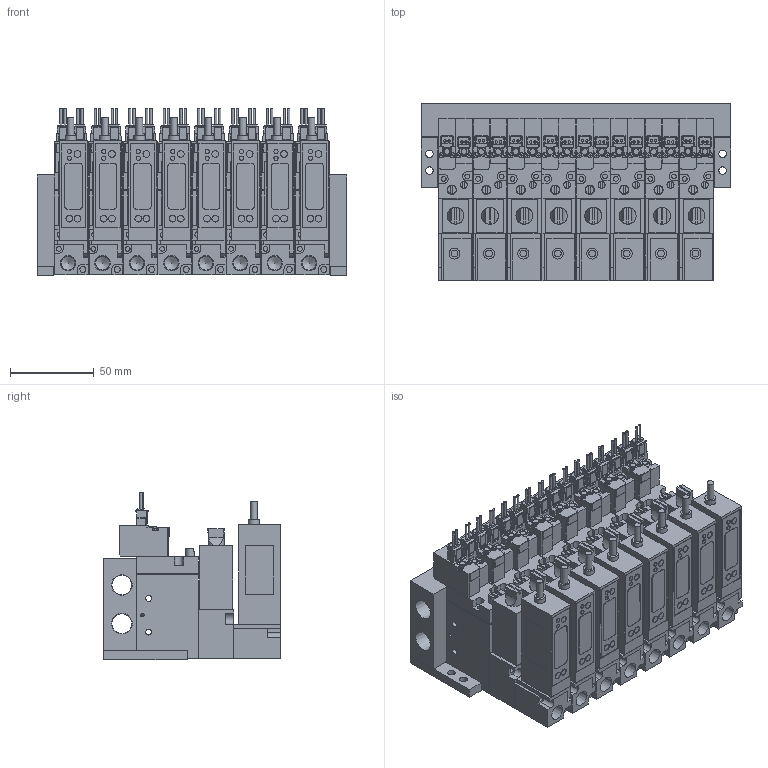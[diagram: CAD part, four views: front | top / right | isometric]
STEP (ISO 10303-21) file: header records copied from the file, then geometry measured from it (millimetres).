
FILE_DESCRIPTION(('STEP AP203'),'1');
FILE_NAME('BMPV32M2NV(R)G25AL808.stp','2025-06-17T00:53:22',(' '),(' '),'Spatial InterOp 3D',' ',' ');
FILE_SCHEMA(('CONFIG_CONTROL_DESIGN'));
Length unit declared in the file: millimetre
Products named in the file (100): BMPV32M2NV(R)G25AL808; Pressure sensor VGL; ___-3(Rc); Filter Assy; __; _____; ___ ___; MB BRACKET; MB08; ___; upper plate-A; ______; ____; VACUUM VALVE FUNCTION MPV42-A; UV280-4E
Assembly tree (99 placements, depth 2):
  BMPV32M2NV(R)G25AL808
    Pressure sensor VGL
    ___-3(Rc)
    Filter Assy
    __
    _____
    ___ ___
    Pressure sensor VGL
    ___-3(Rc)
    Filter Assy
    __
    _____
    ___ ___
    Pressure sensor VGL
    ___-3(Rc)
    Filter Assy
    __
    _____
    ___ ___
    Pressure sensor VGL
    ___-3(Rc)
    Filter Assy
    __
    _____
    ___ ___
    Pressure sensor VGL
    ___-3(Rc)
    Filter Assy
    __
    _____
    ___ ___
    Pressure sensor VGL
    ___-3(Rc)
    Filter Assy
    __
    _____
    ___ ___
    Pressure sensor VGL
    ___-3(Rc)
    Filter Assy
    __
    _____
    ___ ___
    MB BRACKET
    MB08
    MB BRACKET
    Pressure sensor VGL
    ___-3(Rc)
    Filter Assy
    __
    _____
    ___ ___
    ___
    upper plate-A
    ______
    ____
    VACUUM VALVE FUNCTION MPV42-A
    ___
    upper plate-A
    ______
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Bounding box: 184.5 x 105.5 x 99.75 mm (x, y, z)
Volume: 1054303.9 mm3; surface area: 341455.3 mm2
Topology: 99 solids, 99 shells, 3199 faces, 8308 edges, 5520 vertices
Faces by surface type: plane 2557, cylinder 578, cone 64
Full cylindrical faces by diameter (mm): 1.4 x32, 1.8 x16, 2 x16, 2.5 x36, 2.8 x32, 3 x32, 3.5 x84, 4 x40, 4.2 x8, 4.5 x4, 5 x8, 5.5 x8, 6.5 x14, 8.2 x8, 8.759 x8, 11.776 x2
Entity records: 99502 total; most frequent: CARTESIAN_POINT 16991, DIRECTION 15690, ORIENTED_EDGE 15416, EDGE_CURVE 7708, LINE 6260, VECTOR 6260, VERTEX_POINT 5392, AXIS2_PLACEMENT_3D 4715
